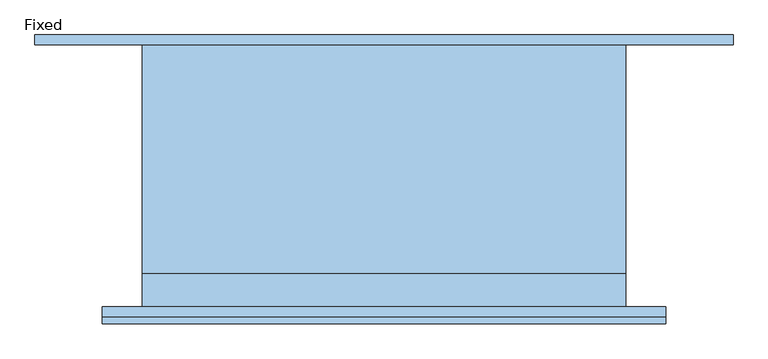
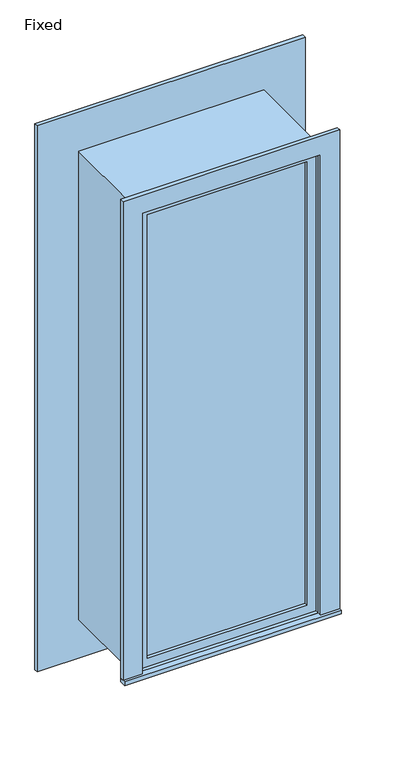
"""IFC4 building model written with IfcOpenShell, lengths in millimetres: window geometry."""

from ifc_helpers import new_model, si_unit, frame, origin, place, context, project, spatial, polyline, outline, extrude, source, transform, mapped, element, save


def fixed_cb3a47af(model_context):
    return source(origin(), model_context, "Body", "SweptSolid", [
        extrude(outline(polyline([(-571.5, -279.4), (-571.5, -247.65), (495.3, -247.65), (495.3, -279.4), (-571.5, -279.4)])), frame((0.0, 0.0, 304.8), z_axis=(0.0, 0.0, 1.0), x_axis=(1.0, 0.0, 0.0)), (0.0, 0.0, 1.0), 19.05),
        extrude(outline(polyline([(2724.15, -476.25), (2724.15, 400.05), (323.85, 400.05), (323.85, 495.3), (2819.4, 495.3), (2819.4, -571.5), (323.85, -571.5), (323.85, -476.25), (2724.15, -476.25)])), frame((0.0, -266.7, 0.0), z_axis=(0.0, 1.0, 0.0), x_axis=(0.0, 0.0, 1.0)), (0.0, 0.0, 1.0), 19.05),
        extrude(outline(polyline([(2946.4, 622.3), (2946.4, -698.5), (101.6, -698.5), (101.6, 622.3), (2946.4, 622.3)]), holes=[polyline([(2711.45, 387.35), (336.55, 387.35), (336.55, -463.55), (2711.45, -463.55), (2711.45, 387.35)])]), frame((0.0, 247.65, 0.0), z_axis=(0.0, 1.0, 0.0), x_axis=(0.0, 0.0, 1.0)), (0.0, 0.0, 1.0), 19.05),
        extrude(outline(polyline([(355.6, -200.025), (355.6, -212.725), (-431.8, -212.725), (-431.8, -200.025), (355.6, -200.025)])), frame((0.0, 0.0, 368.3), z_axis=(0.0, 0.0, 1.0), x_axis=(1.0, 0.0, 0.0)), (0.0, 0.0, 1.0), 2311.4),
        extrude(outline(polyline([(2724.15, -476.25), (323.85, -476.25), (323.85, 400.05), (2724.15, 400.05), (2724.15, -476.25)]), holes=[polyline([(2679.7, -431.8), (2679.7, 355.6), (368.3, 355.6), (368.3, -431.8), (2679.7, -431.8)])]), frame((0.0, -228.6, 0.0), z_axis=(0.0, 1.0, 0.0), x_axis=(0.0, 0.0, 1.0)), (0.0, 0.0, 1.0), 44.45),
        extrude(outline(polyline([(2743.2, -495.3), (304.8, -495.3), (304.8, 419.1), (2743.2, 419.1), (2743.2, -495.3)]), holes=[polyline([(2711.45, -463.55), (2711.45, 387.35), (336.55, 387.35), (336.55, -463.55), (2711.45, -463.55)])]), frame((0.0, -184.15, 0.0), z_axis=(0.0, 1.0, 0.0), x_axis=(0.0, 0.0, 1.0)), (0.0, 0.0, 1.0), 431.8),
        extrude(outline(polyline([(2743.2, 419.1), (2743.2, -495.3), (304.8, -495.3), (304.8, 419.1), (2743.2, 419.1)]), holes=[polyline([(2724.15, 400.05), (323.85, 400.05), (323.85, -476.25), (2724.15, -476.25), (2724.15, 400.05)])]), frame((0.0, -247.65, 0.0), z_axis=(0.0, 1.0, 0.0), x_axis=(0.0, 0.0, 1.0)), (0.0, 0.0, 1.0), 63.5),
    ])


if __name__ == "__main__":
    model = new_model("IFC4")
    model_context = context("Model", 3, world=origin())
    ifc_project = project(units=[si_unit("LENGTHUNIT", "METRE", prefix="MILLI")], contexts=[model_context])
    site = spatial("IfcSite", under=ifc_project)
    building = spatial("IfcBuilding", under=site)
    placement = place(None, origin())
    fixed_shape = fixed_cb3a47af(model_context)
    element("IfcWindow", 1, ObjectType="Fixed : 36\"w x 72\"h", at=placement, inside=building, context=model_context, shape_type="MappedRepresentation", body=[
        mapped(fixed_shape, transform((0.0, 0.0, 0.0), x_axis=(1.0, 0.0, 0.0), y_axis=(0.0, 1.0, 0.0), z_axis=(0.0, 0.0, 1.0))),
    ])
    save(model, "model.ifc")
